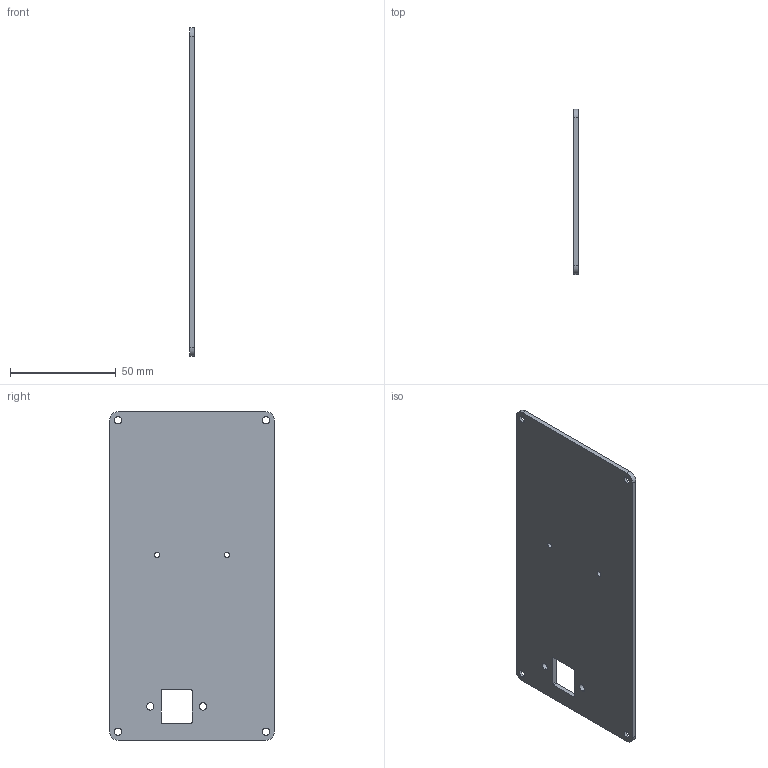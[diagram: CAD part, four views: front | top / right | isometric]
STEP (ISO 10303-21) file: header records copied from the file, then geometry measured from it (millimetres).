
FILE_DESCRIPTION (( 'STEP AP214' ), '1' );
FILE_NAME ('Box_right_side.STEP', '2015-02-26T22:47:13', ( '' ), ( '' ), '', '', '' );
FILE_SCHEMA (( '' ));
Length unit declared in the file: millimetre
Products named in the file (1): Box_right_side
Bounding box: 2.25 x 78 x 155.5 mm (x, y, z)
Volume: 26512.3 mm3; surface area: 24968.3 mm2
Topology: 1 solids, 1 shells, 34 faces, 96 edges, 64 vertices
Faces by surface type: cylinder 16, plane 10, cone 8
Entity records: 1187 total; most frequent: DIRECTION 214, CARTESIAN_POINT 195, ORIENTED_EDGE 192, EDGE_CURVE 96, AXIS2_PLACEMENT_3D 83, VERTEX_POINT 64, EDGE_LOOP 52, CIRCLE 48
